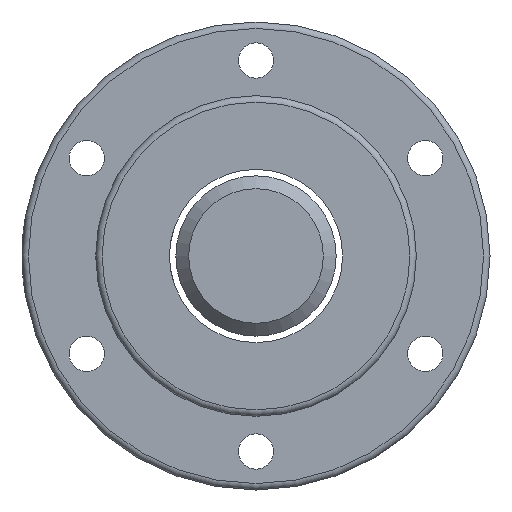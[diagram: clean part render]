
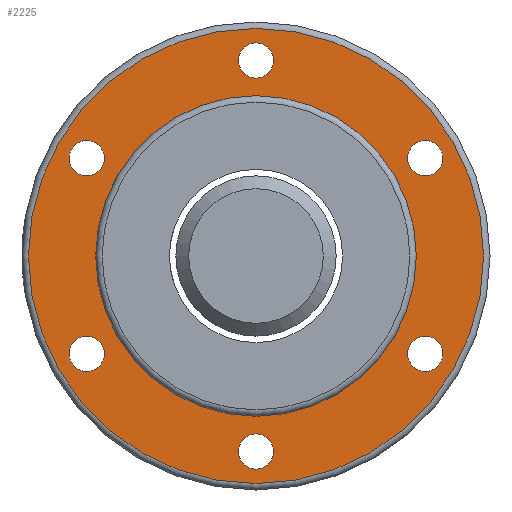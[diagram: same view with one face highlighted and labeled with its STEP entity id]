
A CAD part, left-side view. The second image highlights one B-rep face of the part: STEP entity #2225.
In plain terms, the highlighted planar face has unit normal (-1, 0, 0).
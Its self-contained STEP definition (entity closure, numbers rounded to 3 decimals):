
#25 = AXIS2_PLACEMENT_3D ( 'NONE', #1207, #2487, #108 ) ;
#40 = VERTEX_POINT ( 'NONE', #2163 ) ;
#46 = EDGE_LOOP ( 'NONE', ( #361 ) ) ;
#108 = DIRECTION ( 'NONE',  ( 0., -0.866, 0.5 ) ) ;
#137 = ORIENTED_EDGE ( 'NONE', *, *, #339, .T. ) ;
#146 = CARTESIAN_POINT ( 'NONE',  ( 20., 0., -30.5 ) ) ;
#190 = DIRECTION ( 'NONE',  ( 0., 0.866, 0.5 ) ) ;
#191 = VERTEX_POINT ( 'NONE', #803 ) ;
#206 = CARTESIAN_POINT ( 'NONE',  ( 20., 0., 0. ) ) ;
#208 = VERTEX_POINT ( 'NONE', #1457 ) ;
#227 = DIRECTION ( 'NONE',  ( -1., 0., 0. ) ) ;
#252 = FACE_BOUND ( 'NONE', #324, .T. ) ;
#272 = EDGE_CURVE ( 'NONE', #191, #191, #1311, .T. ) ;
#295 = ORIENTED_EDGE ( 'NONE', *, *, #982, .F. ) ;
#324 = EDGE_LOOP ( 'NONE', ( #295 ) ) ;
#339 = EDGE_CURVE ( 'NONE', #1264, #1264, #514, .T. ) ;
#342 = AXIS2_PLACEMENT_3D ( 'NONE', #2308, #402, #1249 ) ;
#361 = ORIENTED_EDGE ( 'NONE', *, *, #272, .F. ) ;
#381 = CIRCLE ( 'NONE', #1225, 2.75 ) ;
#389 = CARTESIAN_POINT ( 'NONE',  ( 20., -26.414, 15.25 ) ) ;
#402 = DIRECTION ( 'NONE',  ( -1., 0., 0. ) ) ;
#459 = FACE_BOUND ( 'NONE', #1554, .T. ) ;
#495 = CARTESIAN_POINT ( 'NONE',  ( 20., 36.5, 0. ) ) ;
#514 = CIRCLE ( 'NONE', #873, 35.5 ) ;
#550 = DIRECTION ( 'NONE',  ( 0., 0., 1. ) ) ;
#580 = CARTESIAN_POINT ( 'NONE',  ( 20., 26.414, 15.25 ) ) ;
#592 = VERTEX_POINT ( 'NONE', #843 ) ;
#702 = CARTESIAN_POINT ( 'NONE',  ( 20., 24.032, 13.875 ) ) ;
#803 = CARTESIAN_POINT ( 'NONE',  ( 20., 0., 25. ) ) ;
#843 = CARTESIAN_POINT ( 'NONE',  ( 20., -24.032, -13.875 ) ) ;
#866 = CIRCLE ( 'NONE', #1707, 2.75 ) ;
#872 = CARTESIAN_POINT ( 'NONE',  ( 20., 24.032, -13.875 ) ) ;
#873 = AXIS2_PLACEMENT_3D ( 'NONE', #206, #1698, #1067 ) ;
#982 = EDGE_CURVE ( 'NONE', #1251, #1251, #866, .T. ) ;
#1014 = DIRECTION ( 'NONE',  ( -1., 0., 0. ) ) ;
#1041 = EDGE_LOOP ( 'NONE', ( #2184 ) ) ;
#1057 = CARTESIAN_POINT ( 'NONE',  ( 20., 0., -35.5 ) ) ;
#1067 = DIRECTION ( 'NONE',  ( 0., 0., -1. ) ) ;
#1074 = EDGE_LOOP ( 'NONE', ( #137 ) ) ;
#1150 = FACE_BOUND ( 'NONE', #2634, .T. ) ;
#1185 = EDGE_LOOP ( 'NONE', ( #2465 ) ) ;
#1207 = CARTESIAN_POINT ( 'NONE',  ( 20., 26.414, -15.25 ) ) ;
#1225 = AXIS2_PLACEMENT_3D ( 'NONE', #580, #2645, #1426 ) ;
#1249 = DIRECTION ( 'NONE',  ( 0., 0., 1. ) ) ;
#1251 = VERTEX_POINT ( 'NONE', #2349 ) ;
#1264 = VERTEX_POINT ( 'NONE', #1057 ) ;
#1304 = FACE_BOUND ( 'NONE', #46, .T. ) ;
#1311 = CIRCLE ( 'NONE', #342, 25. ) ;
#1354 = AXIS2_PLACEMENT_3D ( 'NONE', #495, #2592, #1945 ) ;
#1358 = FACE_BOUND ( 'NONE', #1041, .T. ) ;
#1400 = CIRCLE ( 'NONE', #1446, 2.75 ) ;
#1426 = DIRECTION ( 'NONE',  ( 0., -0.866, -0.5 ) ) ;
#1441 = CIRCLE ( 'NONE', #2424, 2.75 ) ;
#1446 = AXIS2_PLACEMENT_3D ( 'NONE', #146, #2460, #550 ) ;
#1457 = CARTESIAN_POINT ( 'NONE',  ( 20., -24.032, 13.875 ) ) ;
#1538 = FACE_BOUND ( 'NONE', #1681, .T. ) ;
#1548 = VERTEX_POINT ( 'NONE', #702 ) ;
#1554 = EDGE_LOOP ( 'NONE', ( #2284 ) ) ;
#1631 = DIRECTION ( 'NONE',  ( -1., 0., 0. ) ) ;
#1681 = EDGE_LOOP ( 'NONE', ( #2041 ) ) ;
#1698 = DIRECTION ( 'NONE',  ( -1., 0., 0. ) ) ;
#1707 = AXIS2_PLACEMENT_3D ( 'NONE', #2611, #227, #2596 ) ;
#1746 = PLANE ( 'NONE',  #1354 ) ;
#1916 = EDGE_CURVE ( 'NONE', #592, #592, #2289, .T. ) ;
#1925 = VERTEX_POINT ( 'NONE', #872 ) ;
#1934 = EDGE_CURVE ( 'NONE', #208, #208, #1441, .T. ) ;
#1945 = DIRECTION ( 'NONE',  ( 0., 1., 0. ) ) ;
#1957 = FACE_OUTER_BOUND ( 'NONE', #1074, .T. ) ;
#2041 = ORIENTED_EDGE ( 'NONE', *, *, #1916, .F. ) ;
#2163 = CARTESIAN_POINT ( 'NONE',  ( 20., 0., -27.75 ) ) ;
#2184 = ORIENTED_EDGE ( 'NONE', *, *, #2536, .F. ) ;
#2225 = ADVANCED_FACE ( 'NONE', ( #2365, #459, #1150, #1957, #1304, #1538, #252, #1358 ), #1746, .F. ) ;
#2284 = ORIENTED_EDGE ( 'NONE', *, *, #1934, .F. ) ;
#2289 = CIRCLE ( 'NONE', #2649, 2.75 ) ;
#2292 = CIRCLE ( 'NONE', #25, 2.75 ) ;
#2308 = CARTESIAN_POINT ( 'NONE',  ( 20., 0., 0. ) ) ;
#2315 = ORIENTED_EDGE ( 'NONE', *, *, #2622, .F. ) ;
#2349 = CARTESIAN_POINT ( 'NONE',  ( 20., 0., 27.75 ) ) ;
#2365 = FACE_BOUND ( 'NONE', #1185, .T. ) ;
#2424 = AXIS2_PLACEMENT_3D ( 'NONE', #389, #1631, #2530 ) ;
#2449 = EDGE_CURVE ( 'NONE', #1548, #1548, #381, .T. ) ;
#2460 = DIRECTION ( 'NONE',  ( -1., 0., 0. ) ) ;
#2465 = ORIENTED_EDGE ( 'NONE', *, *, #2449, .F. ) ;
#2487 = DIRECTION ( 'NONE',  ( -1., 0., 0. ) ) ;
#2516 = CARTESIAN_POINT ( 'NONE',  ( 20., -26.414, -15.25 ) ) ;
#2530 = DIRECTION ( 'NONE',  ( 0., 0.866, -0.5 ) ) ;
#2536 = EDGE_CURVE ( 'NONE', #1925, #1925, #2292, .T. ) ;
#2592 = DIRECTION ( 'NONE',  ( 1., 0., 0. ) ) ;
#2596 = DIRECTION ( 'NONE',  ( 0., 0., -1. ) ) ;
#2611 = CARTESIAN_POINT ( 'NONE',  ( 20., 0., 30.5 ) ) ;
#2622 = EDGE_CURVE ( 'NONE', #40, #40, #1400, .T. ) ;
#2634 = EDGE_LOOP ( 'NONE', ( #2315 ) ) ;
#2645 = DIRECTION ( 'NONE',  ( -1., 0., 0. ) ) ;
#2649 = AXIS2_PLACEMENT_3D ( 'NONE', #2516, #1014, #190 ) ;
